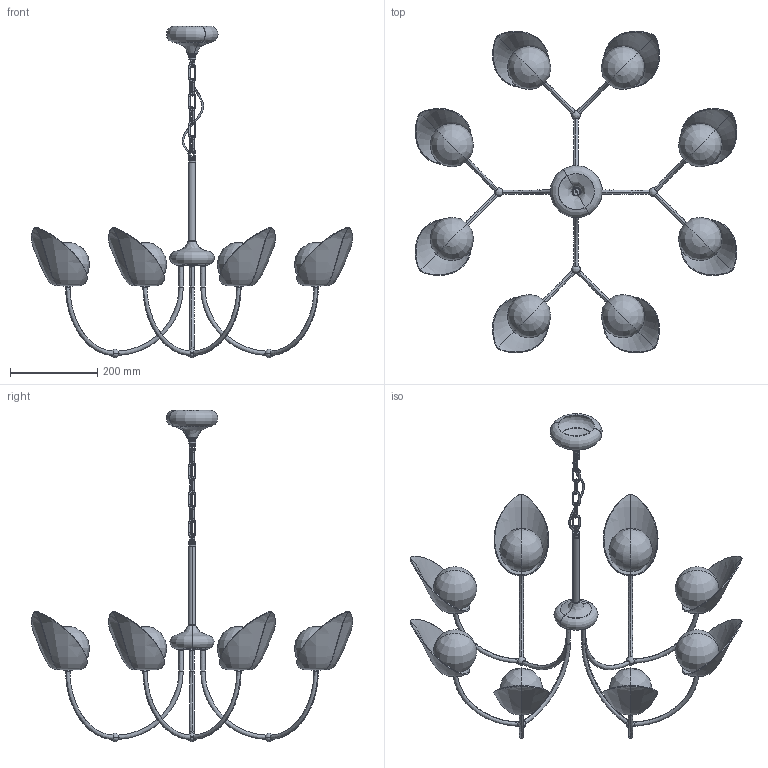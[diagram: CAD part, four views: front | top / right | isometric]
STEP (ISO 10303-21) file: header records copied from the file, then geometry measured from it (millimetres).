
FILE_DESCRIPTION(/* description */ (''),/* implementation_level */ '2;1');
FILE_NAME(/* name */ 'FLORCA~1',/* time_stamp */ '2025-10-07T10:04:23+08:00',/* author */ (''),/* organization */ (''),/* preprocessor_version */ 'ST-DEVELOPER v16.5',/* originating_system */ '',/* authorisation */ '');
FILE_SCHEMA (('AUTOMOTIVE_DESIGN'));
Length unit declared in the file: millimetre
Products named in the file (1): Document
Bounding box: 737.37 x 737.37 x 760.73 mm (x, y, z)
Volume: 4561216.1 mm3; surface area: 866894.8 mm2
Topology: 49 solids, 98 shells, 344 faces, 836 edges, 497 vertices
Faces by surface type: bspline 314, plane 30
Entity records: 50650 total; most frequent: CARTESIAN_POINT 46107, ORIENTED_EDGE 1234, EDGE_CURVE 706, VERTEX_POINT 497, ADVANCED_FACE 344, FACE_OUTER_BOUND 344, EDGE_LOOP 344, B_SPLINE_CURVE_WITH_KNOTS 198
